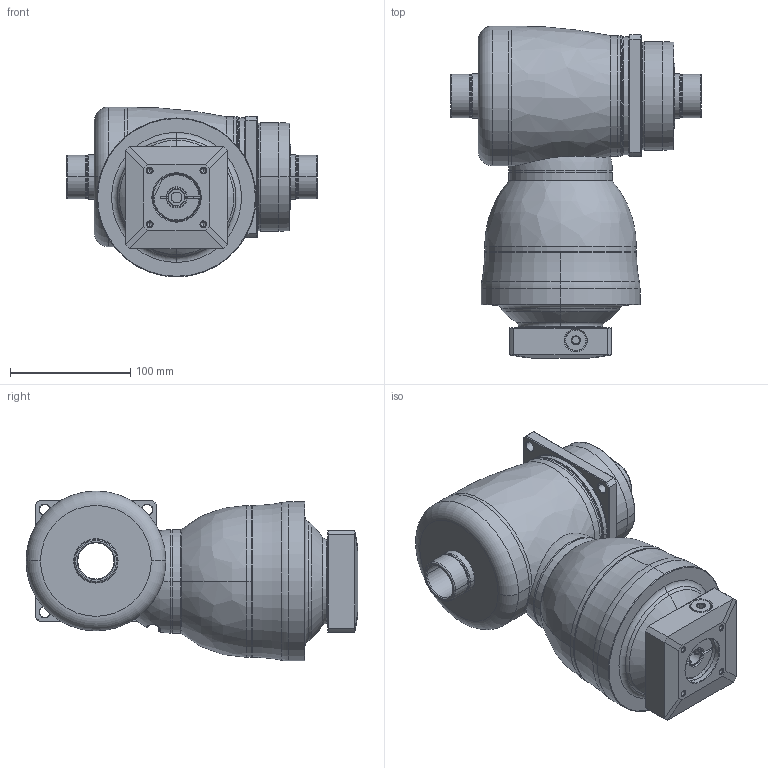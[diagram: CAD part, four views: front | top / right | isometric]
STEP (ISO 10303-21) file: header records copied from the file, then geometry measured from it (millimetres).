
FILE_DESCRIPTION((''),'2;1');
FILE_NAME('KF100_S4_2ST_14-P0409310101_ASM','2016-07-22T',('d01943'),(''),'PRO/ENGINEER BY PARAMETRIC TECHNOLOGY CORPORATION, 2008410','PRO/ENGINEER BY PARAMETRIC TECHNOLOGY CORPORATION, 2008410','');
FILE_SCHEMA(('CONFIG_CONTROL_DESIGN'));
Length unit declared in the file: millimetre
Products named in the file (11): P1008400002; P1804400001; P0914400001; P1315400001; P1007400001; P1317400001; P0409310101; P0503300006; P0912301001; 21711412017; KF100_S4_2ST_14-P0409310101_ASM
Assembly tree (10 placements, depth 2):
  KF100_S4_2ST_14-P0409310101_ASM
    P1008400002
    P1804400001
    P0914400001
    P1315400001
    P1007400001
    P1317400001
    P0409310101
    P0503300006
    P0912301001
    21711412017
Bounding box: 208.3 x 275.5 x 141 mm (x, y, z)
Volume: 2507301 mm3; surface area: 350620.7 mm2
Topology: 11 solids, 11 shells, 507 faces, 1122 edges, 660 vertices
Faces by surface type: cylinder 168, cone 124, plane 101, torus 74, bspline 38, sphere 2
Entity records: 19646 total; most frequent: CARTESIAN_POINT 8258, DIRECTION 2512, ORIENTED_EDGE 2208, EDGE_CURVE 1104, AXIS2_PLACEMENT_3D 1072, VERTEX_POINT 660, CIRCLE 582, EDGE_LOOP 578
